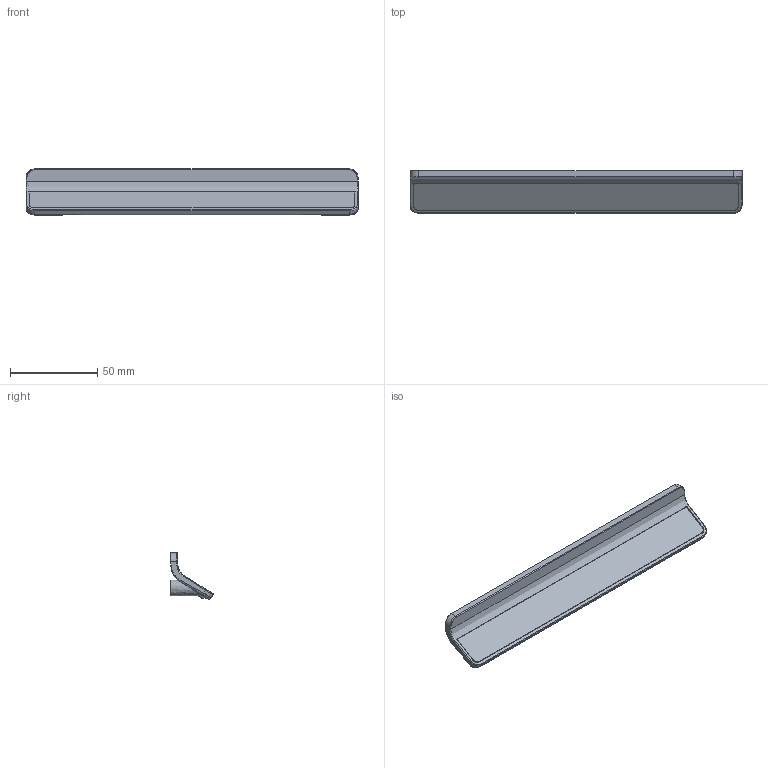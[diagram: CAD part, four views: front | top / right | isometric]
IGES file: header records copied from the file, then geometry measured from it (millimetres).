
Start section: C
Global section: file name: 8239-190.igs; native system: By Siemens PLM Incorporated; preprocessor: XPlus GENERIC/IGES 16.0.42; author: Author; organization: Title; date: 20200903.152250; units: millimetre
Bounding box: 190 x 24.2 x 26.35 mm (x, y, z)
Surface area: 26157.6 mm2 (no closed solid volume)
Topology: 0 solids, 0 shells, 153 faces, 839 edges, 837 vertices
Faces by surface type: bspline 153
